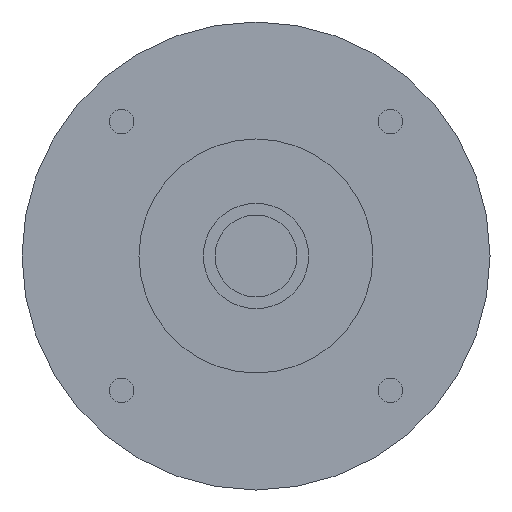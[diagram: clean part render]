
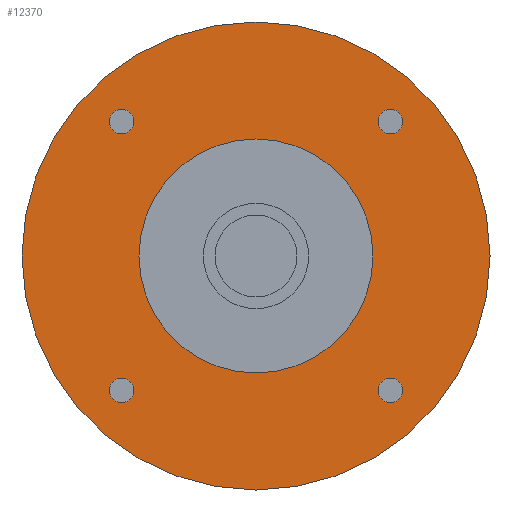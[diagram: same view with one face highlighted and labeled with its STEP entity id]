
A CAD part, left-side view. The second image highlights one B-rep face of the part: STEP entity #12370.
In plain terms, the highlighted planar face has unit normal (-1, 0, 0) as drawn and (0, 0, -1) by its records, which use the part's own axes.
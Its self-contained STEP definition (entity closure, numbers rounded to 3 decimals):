
#8680=CARTESIAN_POINT('',(-20.,0.,-42.2));
#8690=VERTEX_POINT('',#8680);
#8870=CARTESIAN_POINT('',(20.,0.,-42.2));
#8880=VERTEX_POINT('',#8870);
#8910=CARTESIAN_POINT('',(0.,0.,
-42.2));
#8920=DIRECTION('',(0.,0.,1.));
#8930=DIRECTION('',(-1.,0.,0.));
#8940=AXIS2_PLACEMENT_3D('',#8910,#8920,#8930);
#8950=CIRCLE('',#8940,20.);
#8960=EDGE_CURVE('',#8880,#8690,#8950,.T.);
#9100=CARTESIAN_POINT('',(-25.081,-22.981,-42.2));
#9110=VERTEX_POINT('',#9100);
#9290=CARTESIAN_POINT('',(-20.881,-22.981,-42.2));
#9300=VERTEX_POINT('',#9290);
#9330=CARTESIAN_POINT('',(-22.981,-22.981,-42.2));
#9340=DIRECTION('',(0.,0.,-1.));
#9350=DIRECTION('',(1.,0.,0.));
#9360=AXIS2_PLACEMENT_3D('',#9330,#9340,#9350);
#9370=CIRCLE('',#9360,2.1);
#9380=EDGE_CURVE('',#9110,#9300,#9370,.T.);
#11490=CARTESIAN_POINT('',(-40.,0.,-42.2));
#11500=VERTEX_POINT('',#11490);
#11530=CARTESIAN_POINT('',(0.,0.,
-42.2));
#11540=DIRECTION('',(0.,0.,-1.));
#11550=DIRECTION('',(1.,0.,0.));
#11560=AXIS2_PLACEMENT_3D('',#11530,#11540,#11550);
#11570=CIRCLE('',#11560,40.);
#11580=CARTESIAN_POINT('',(40.,0.,-42.2));
#11590=VERTEX_POINT('',#11580);
#11600=EDGE_CURVE('',#11500,#11590,#11570,.T.);
#11720=CARTESIAN_POINT('',(0.,0.,
-42.2));
#11730=DIRECTION('',(0.,0.,1.));
#11740=DIRECTION('',(1.,0.,0.));
#11750=AXIS2_PLACEMENT_3D('',#11720,#11730,#11740);
#11760=PLANE('',#11750);
#11770=CARTESIAN_POINT('',(-22.981,22.981,-42.2));
#11780=DIRECTION('',(0.,0.,-1.));
#11790=DIRECTION('',(1.,0.,0.));
#11800=AXIS2_PLACEMENT_3D('',#11770,#11780,#11790);
#11810=CIRCLE('',#11800,2.1);
#11820=CARTESIAN_POINT('',(-20.881,22.981,-42.2));
#11830=VERTEX_POINT('',#11820);
#11840=CARTESIAN_POINT('',(-25.081,22.981,-42.2));
#11850=VERTEX_POINT('',#11840);
#11860=EDGE_CURVE('',#11830,#11850,#11810,.T.);
#11870=ORIENTED_EDGE('',*,*,#11860,.F.);
#11880=EDGE_CURVE('',#11850,#11830,#11810,.T.);
#11890=ORIENTED_EDGE('',*,*,#11880,.F.);
#11900=EDGE_LOOP('',(#11890,#11870));
#11910=FACE_BOUND('',#11900,.T.);
#11920=CARTESIAN_POINT('',(22.981,22.981,-42.2));
#11930=DIRECTION('',(0.,0.,-1.));
#11940=DIRECTION('',(1.,0.,0.));
#11950=AXIS2_PLACEMENT_3D('',#11920,#11930,#11940);
#11960=CIRCLE('',#11950,2.1);
#11970=CARTESIAN_POINT('',(25.081,22.981,-42.2));
#11980=VERTEX_POINT('',#11970);
#11990=CARTESIAN_POINT('',(20.881,22.981,-42.2));
#12000=VERTEX_POINT('',#11990);
#12010=EDGE_CURVE('',#11980,#12000,#11960,.T.);
#12020=ORIENTED_EDGE('',*,*,#12010,.F.);
#12030=EDGE_CURVE('',#12000,#11980,#11960,.T.);
#12040=ORIENTED_EDGE('',*,*,#12030,.F.);
#12050=EDGE_LOOP('',(#12040,#12020));
#12060=FACE_BOUND('',#12050,.T.);
#12070=CARTESIAN_POINT('',(22.981,-22.981,-42.2));
#12080=DIRECTION('',(0.,0.,-1.));
#12090=DIRECTION('',(1.,0.,0.));
#12100=AXIS2_PLACEMENT_3D('',#12070,#12080,#12090);
#12110=CIRCLE('',#12100,2.1);
#12120=CARTESIAN_POINT('',(25.081,-22.981,-42.2));
#12130=VERTEX_POINT('',#12120);
#12140=CARTESIAN_POINT('',(20.881,-22.981,-42.2));
#12150=VERTEX_POINT('',#12140);
#12160=EDGE_CURVE('',#12130,#12150,#12110,.T.);
#12170=ORIENTED_EDGE('',*,*,#12160,.F.);
#12180=EDGE_CURVE('',#12150,#12130,#12110,.T.);
#12190=ORIENTED_EDGE('',*,*,#12180,.F.);
#12200=EDGE_LOOP('',(#12190,#12170));
#12210=FACE_BOUND('',#12200,.T.);
#12220=EDGE_CURVE('',#8690,#8880,#8950,.T.);
#12230=ORIENTED_EDGE('',*,*,#12220,.T.);
#12240=ORIENTED_EDGE('',*,*,#8960,.T.);
#12250=EDGE_LOOP('',(#12240,#12230));
#12260=FACE_BOUND('',#12250,.T.);
#12270=EDGE_CURVE('',#9300,#9110,#9370,.T.);
#12280=ORIENTED_EDGE('',*,*,#12270,.F.);
#12290=ORIENTED_EDGE('',*,*,#9380,.F.);
#12300=EDGE_LOOP('',(#12290,#12280));
#12310=FACE_BOUND('',#12300,.T.);
#12320=EDGE_CURVE('',#11590,#11500,#11570,.T.);
#12330=ORIENTED_EDGE('',*,*,#12320,.T.);
#12340=ORIENTED_EDGE('',*,*,#11600,.T.);
#12350=EDGE_LOOP('',(#12340,#12330));
#12360=FACE_OUTER_BOUND('',#12350,.T.);
#12370=ADVANCED_FACE('',(#11910,#12060,#12210,#12260,#12310,#12360),
#11760,.F.);
